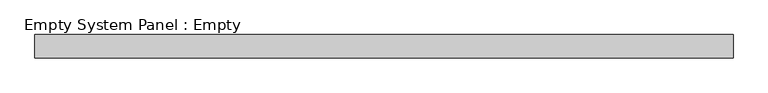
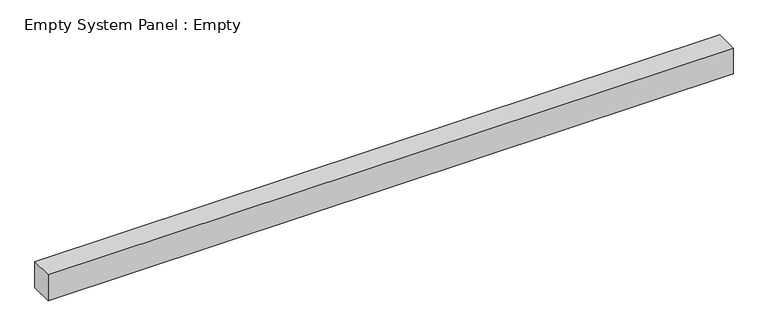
"""IFC4 building model written with IfcOpenShell, lengths in millimetres: plate geometry, Empty System Panel : Empty."""

from ifc_helpers import new_model, si_unit, origin, origin_with_axes, place, context, project, spatial, polyline, outline, extrude, source, transform, mapped, element, save


def empty_system_panel_empty_6fa24678(model_context):
    return source(origin(), model_context, "Body", "SweptSolid", [
        extrude(outline(polyline([(1500.0, -50.0), (-1500.0, -50.0), (-1500.0, 50.0), (1500.0, 50.0), (1500.0, -50.0)])), origin_with_axes(), (0.0, 0.0, 1.0), 120.0),
    ])


if __name__ == "__main__":
    model = new_model("IFC4")
    model_context = context("Model", 3, world=origin())
    ifc_project = project(units=[si_unit("LENGTHUNIT", "METRE", prefix="MILLI")], contexts=[model_context])
    site = spatial("IfcSite", under=ifc_project)
    building = spatial("IfcBuilding", under=site)
    placement = place(None, origin())
    empty_system_panel_empty_shape = empty_system_panel_empty_6fa24678(model_context)
    element("IfcPlate", 1, ObjectType="Empty System Panel : Empty", at=placement, inside=building, context=model_context, shape_type="MappedRepresentation", body=[
        mapped(empty_system_panel_empty_shape, transform((0.0, 0.0, 0.0), x_axis=(1.0, 0.0, 0.0), y_axis=(0.0, 1.0, 0.0), z_axis=(0.0, 0.0, 1.0))),
    ])
    save(model, "model.ifc")
